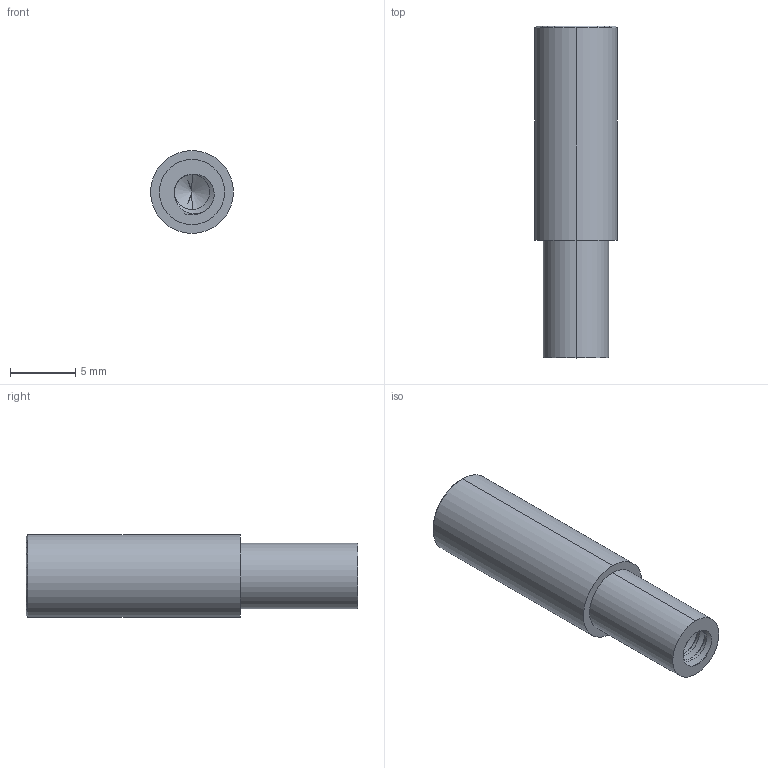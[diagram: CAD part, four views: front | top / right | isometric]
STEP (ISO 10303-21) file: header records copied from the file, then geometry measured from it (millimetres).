
FILE_DESCRIPTION (( 'STEP AP203' ), '1' );
FILE_NAME ('633162.STEP', '2016-09-02T13:30:51', ( '' ), ( '' ), 'SwSTEP 2.0', 'SolidWorks 2014', '' );
FILE_SCHEMA (( 'CONFIG_CONTROL_DESIGN' ));
Length unit declared in the file: inch
Products named in the file (1): 633162
Bounding box: 6.34 x 25.4 x 6.34 mm (x, y, z)
Volume: 567.7 mm3; surface area: 780.9 mm2
Topology: 1 solids, 1 shells, 103 faces, 294 edges, 192 vertices
Faces by surface type: cylinder 88, cone 8, bspline 4, plane 3
Entity records: 5893 total; most frequent: CARTESIAN_POINT 3638, ORIENTED_EDGE 580, DIRECTION 348, EDGE_CURVE 290, VERTEX_POINT 192, AXIS2_PLACEMENT_3D 128, EDGE_LOOP 106, ADVANCED_FACE 103
